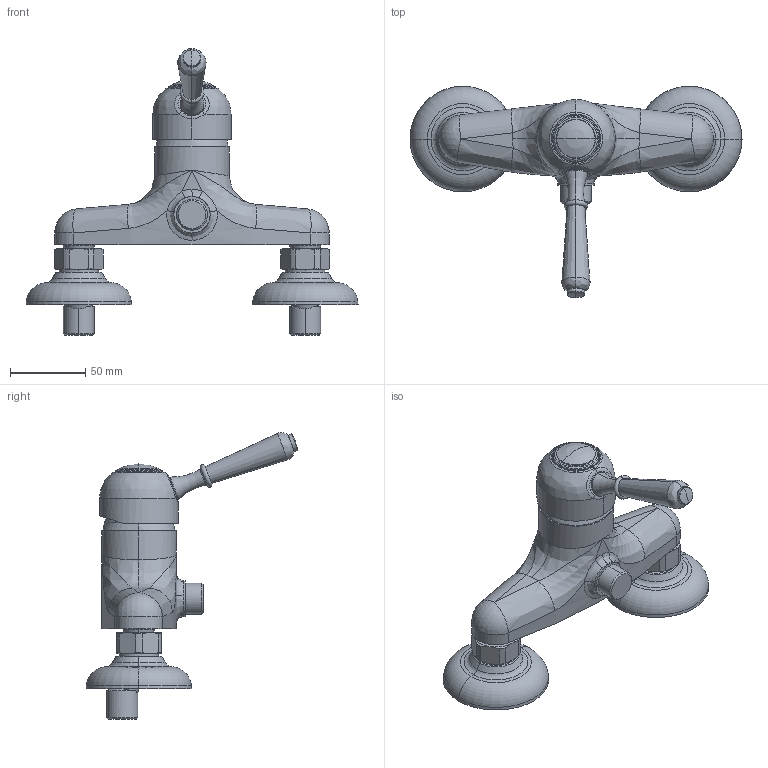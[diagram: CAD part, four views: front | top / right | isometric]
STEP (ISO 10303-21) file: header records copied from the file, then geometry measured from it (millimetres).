
FILE_DESCRIPTION((''),'2;1');
FILE_NAME('F3365_1_FILE_3D','2013-08-08T',('ivanv'),(''),'PRO/ENGINEER BY PARAMETRIC TECHNOLOGY CORPORATION, 2012130','PRO/ENGINEER BY PARAMETRIC TECHNOLOGY CORPORATION, 2012130','');
FILE_SCHEMA(('CONFIG_CONTROL_DESIGN'));
Length unit declared in the file: millimetre
Products named in the file (1): F3365_1_FILE_3D
Bounding box: 220 x 140.43 x 190.13 mm (x, y, z)
Volume: 459416.8 mm3; surface area: 80603 mm2
Topology: 1 solids, 4 shells, 409 faces, 923 edges, 535 vertices
Faces by surface type: cylinder 117, plane 97, cone 81, torus 54, bspline 50, sphere 10
Entity records: 15592 total; most frequent: CARTESIAN_POINT 6775, DIRECTION 1856, ORIENTED_EDGE 1818, EDGE_CURVE 909, AXIS2_PLACEMENT_3D 776, VERTEX_POINT 535, EDGE_LOOP 442, CIRCLE 416
